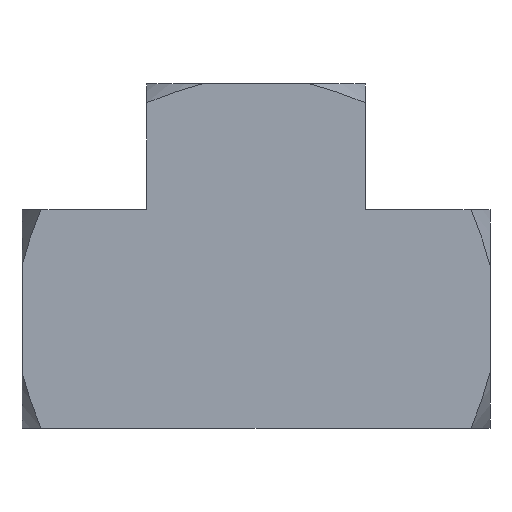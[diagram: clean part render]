
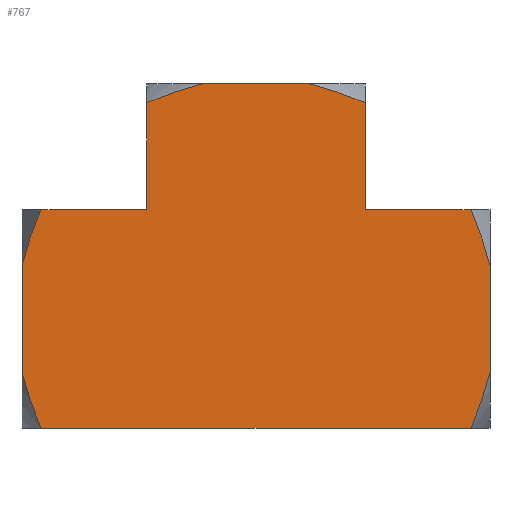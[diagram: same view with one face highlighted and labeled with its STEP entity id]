
A CAD part, front view. The second image highlights one B-rep face of the part: STEP entity #767.
In plain terms, the highlighted planar face has unit normal (0, -1, 0).
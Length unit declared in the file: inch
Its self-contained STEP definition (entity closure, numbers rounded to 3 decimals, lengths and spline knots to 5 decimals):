
#21=(
BOUNDED_CURVE()
B_SPLINE_CURVE(2,(#1334,#1335,#1336),.UNSPECIFIED.,.F.,.F.)
B_SPLINE_CURVE_WITH_KNOTS((3,3),(0.,0.68401),.UNSPECIFIED.)
CURVE()
GEOMETRIC_REPRESENTATION_ITEM()
RATIONAL_B_SPLINE_CURVE((1.,1.021,1.))
REPRESENTATION_ITEM('')
);
#22=(
BOUNDED_CURVE()
B_SPLINE_CURVE(2,(#1338,#1339,#1340),.UNSPECIFIED.,.F.,.F.)
B_SPLINE_CURVE_WITH_KNOTS((3,3),(0.,0.68401),.UNSPECIFIED.)
CURVE()
GEOMETRIC_REPRESENTATION_ITEM()
RATIONAL_B_SPLINE_CURVE((1.,1.021,1.))
REPRESENTATION_ITEM('')
);
#27=(
BOUNDED_CURVE()
B_SPLINE_CURVE(2,(#1361,#1362,#1363),.UNSPECIFIED.,.F.,.F.)
B_SPLINE_CURVE_WITH_KNOTS((3,3),(0.,0.68276),.UNSPECIFIED.)
CURVE()
GEOMETRIC_REPRESENTATION_ITEM()
RATIONAL_B_SPLINE_CURVE((1.,1.021,1.))
REPRESENTATION_ITEM('')
);
#28=(
BOUNDED_CURVE()
B_SPLINE_CURVE(2,(#1364,#1365,#1366),.UNSPECIFIED.,.F.,.F.)
B_SPLINE_CURVE_WITH_KNOTS((3,3),(0.,0.68276),.UNSPECIFIED.)
CURVE()
GEOMETRIC_REPRESENTATION_ITEM()
RATIONAL_B_SPLINE_CURVE((1.,1.021,1.))
REPRESENTATION_ITEM('')
);
#29=(
BOUNDED_CURVE()
B_SPLINE_CURVE(2,(#1368,#1369,#1370),.UNSPECIFIED.,.F.,.F.)
B_SPLINE_CURVE_WITH_KNOTS((3,3),(0.,0.68276),.UNSPECIFIED.)
CURVE()
GEOMETRIC_REPRESENTATION_ITEM()
RATIONAL_B_SPLINE_CURVE((1.,1.021,1.))
REPRESENTATION_ITEM('')
);
#30=(
BOUNDED_CURVE()
B_SPLINE_CURVE(2,(#1373,#1374,#1375),.UNSPECIFIED.,.F.,.F.)
B_SPLINE_CURVE_WITH_KNOTS((3,3),(0.,0.68276),.UNSPECIFIED.)
CURVE()
GEOMETRIC_REPRESENTATION_ITEM()
RATIONAL_B_SPLINE_CURVE((1.,1.021,1.))
REPRESENTATION_ITEM('')
);
#55=PLANE('',#876);
#107=FACE_OUTER_BOUND('',#156,.T.);
#156=EDGE_LOOP('',(#662,#663,#664,#665,#666,#667,#668,#669,#670,#671,#672,
#673,#674,#675));
#227=LINE('',#1178,#265);
#233=LINE('',#1209,#271);
#239=LINE('',#1240,#277);
#250=LINE('',#1306,#288);
#251=LINE('',#1317,#289);
#252=LINE('',#1322,#290);
#256=LINE('',#1359,#294);
#257=LINE('',#1372,#295);
#265=VECTOR('',#935,0.3937);
#271=VECTOR('',#965,0.3937);
#277=VECTOR('',#995,0.3937);
#288=VECTOR('',#1056,0.3937);
#289=VECTOR('',#1061,0.3937);
#290=VECTOR('',#1068,0.3937);
#294=VECTOR('',#1092,0.3937);
#295=VECTOR('',#1095,0.3937);
#316=VERTEX_POINT('',#1175);
#317=VERTEX_POINT('',#1177);
#329=VERTEX_POINT('',#1206);
#330=VERTEX_POINT('',#1208);
#342=VERTEX_POINT('',#1237);
#343=VERTEX_POINT('',#1239);
#360=VERTEX_POINT('',#1303);
#361=VERTEX_POINT('',#1305);
#362=VERTEX_POINT('',#1314);
#363=VERTEX_POINT('',#1316);
#364=VERTEX_POINT('',#1320);
#369=VERTEX_POINT('',#1355);
#370=VERTEX_POINT('',#1367);
#371=VERTEX_POINT('',#1371);
#398=EDGE_CURVE('',#316,#317,#227,.T.);
#413=EDGE_CURVE('',#329,#330,#233,.T.);
#428=EDGE_CURVE('',#342,#343,#239,.T.);
#455=EDGE_CURVE('',#361,#360,#250,.T.);
#459=EDGE_CURVE('',#362,#363,#251,.T.);
#462=EDGE_CURVE('',#364,#360,#252,.T.);
#468=EDGE_CURVE('',#363,#342,#21,.T.);
#469=EDGE_CURVE('',#343,#364,#22,.T.);
#475=EDGE_CURVE('',#362,#369,#256,.T.);
#476=EDGE_CURVE('',#361,#329,#27,.T.);
#477=EDGE_CURVE('',#317,#369,#28,.T.);
#478=EDGE_CURVE('',#370,#316,#29,.T.);
#479=EDGE_CURVE('',#371,#370,#257,.T.);
#480=EDGE_CURVE('',#330,#371,#30,.T.);
#662=ORIENTED_EDGE('',*,*,#476,.F.);
#663=ORIENTED_EDGE('',*,*,#455,.T.);
#664=ORIENTED_EDGE('',*,*,#462,.F.);
#665=ORIENTED_EDGE('',*,*,#469,.F.);
#666=ORIENTED_EDGE('',*,*,#428,.F.);
#667=ORIENTED_EDGE('',*,*,#468,.F.);
#668=ORIENTED_EDGE('',*,*,#459,.F.);
#669=ORIENTED_EDGE('',*,*,#475,.T.);
#670=ORIENTED_EDGE('',*,*,#477,.F.);
#671=ORIENTED_EDGE('',*,*,#398,.F.);
#672=ORIENTED_EDGE('',*,*,#478,.F.);
#673=ORIENTED_EDGE('',*,*,#479,.F.);
#674=ORIENTED_EDGE('',*,*,#480,.F.);
#675=ORIENTED_EDGE('',*,*,#413,.F.);
#767=ADVANCED_FACE('',(#107),#55,.F.);
#876=AXIS2_PLACEMENT_3D('',#1360,#1093,#1094);
#935=DIRECTION('',(0.,0.,1.));
#965=DIRECTION('',(0.,0.,-1.));
#995=DIRECTION('',(1.,0.,0.));
#1056=DIRECTION('',(-1.,0.,0.));
#1061=DIRECTION('',(0.,0.,1.));
#1068=DIRECTION('',(0.,0.,-1.));
#1092=DIRECTION('',(-1.,0.,0.));
#1093=DIRECTION('center_axis',(0.,1.,0.));
#1094=DIRECTION('ref_axis',(0.,0.,-1.));
#1095=DIRECTION('',(-1.,0.,0.));
#1175=CARTESIAN_POINT('',(-1.07,-0.5,-0.2457));
#1177=CARTESIAN_POINT('',(-1.07,-0.5,0.2457));
#1178=CARTESIAN_POINT('',(-1.07,-0.5,0.25));
#1206=CARTESIAN_POINT('',(1.07,-0.5,0.2457));
#1208=CARTESIAN_POINT('',(1.07,-0.5,-0.2457));
#1209=CARTESIAN_POINT('',(1.07,-0.5,0.25));
#1237=CARTESIAN_POINT('',(-0.24432,-0.5,1.075));
#1239=CARTESIAN_POINT('',(0.24432,-0.5,1.075));
#1240=CARTESIAN_POINT('',(-0.25,-0.5,1.075));
#1303=CARTESIAN_POINT('',(0.49914,-0.5,0.5));
#1305=CARTESIAN_POINT('',(0.9834,-0.5,0.5));
#1306=CARTESIAN_POINT('',(0.,-0.5,0.5));
#1314=CARTESIAN_POINT('',(-0.49914,-0.5,0.5));
#1316=CARTESIAN_POINT('',(-0.49914,-0.5,0.9884));
#1317=CARTESIAN_POINT('',(-0.49914,-0.5,0.5));
#1320=CARTESIAN_POINT('',(0.49914,-0.5,0.9884));
#1322=CARTESIAN_POINT('',(0.49914,-0.5,0.5));
#1334=CARTESIAN_POINT('Ctrl Pts',(-0.49914,-0.5,0.9884));
#1335=CARTESIAN_POINT('Ctrl Pts',(-0.3566,-0.5,1.04654));
#1336=CARTESIAN_POINT('Ctrl Pts',(-0.24432,-0.5,1.075));
#1338=CARTESIAN_POINT('Ctrl Pts',(0.24432,-0.5,1.075));
#1339=CARTESIAN_POINT('Ctrl Pts',(0.3566,-0.5,1.04654));
#1340=CARTESIAN_POINT('Ctrl Pts',(0.49914,-0.5,0.9884));
#1355=CARTESIAN_POINT('',(-0.9834,-0.5,0.5));
#1359=CARTESIAN_POINT('',(0.,-0.5,0.5));
#1360=CARTESIAN_POINT('Origin',(1.07,-0.5,0.5));
#1361=CARTESIAN_POINT('Ctrl Pts',(0.9834,-0.5,0.5));
#1362=CARTESIAN_POINT('Ctrl Pts',(1.04147,-0.5,0.35776));
#1363=CARTESIAN_POINT('Ctrl Pts',(1.07,-0.5,0.2457));
#1364=CARTESIAN_POINT('Ctrl Pts',(-1.07,-0.5,0.2457));
#1365=CARTESIAN_POINT('Ctrl Pts',(-1.04147,-0.5,0.35776));
#1366=CARTESIAN_POINT('Ctrl Pts',(-0.9834,-0.5,0.5));
#1367=CARTESIAN_POINT('',(-0.9834,-0.5,-0.5));
#1368=CARTESIAN_POINT('Ctrl Pts',(-0.9834,-0.5,-0.5));
#1369=CARTESIAN_POINT('Ctrl Pts',(-1.04147,-0.5,-0.35776));
#1370=CARTESIAN_POINT('Ctrl Pts',(-1.07,-0.5,-0.2457));
#1371=CARTESIAN_POINT('',(0.9834,-0.5,-0.5));
#1372=CARTESIAN_POINT('',(0.,-0.5,-0.5));
#1373=CARTESIAN_POINT('Ctrl Pts',(1.07,-0.5,-0.2457));
#1374=CARTESIAN_POINT('Ctrl Pts',(1.04147,-0.5,-0.35776));
#1375=CARTESIAN_POINT('Ctrl Pts',(0.9834,-0.5,-0.5));
